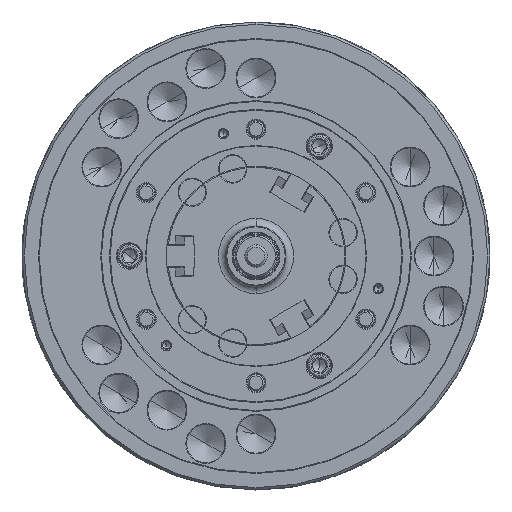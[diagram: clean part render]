
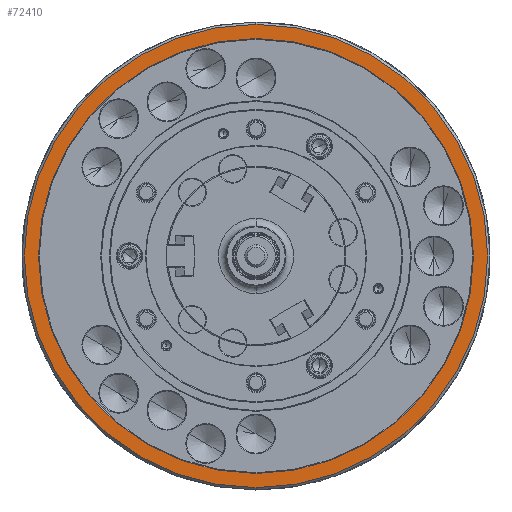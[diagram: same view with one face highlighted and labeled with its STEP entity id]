
A CAD part, left-side view. The second image highlights one B-rep face of the part: STEP entity #72410.
In plain terms, the highlighted planar face has unit normal (-1, 0, 0).
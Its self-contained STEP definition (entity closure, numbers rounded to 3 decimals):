
#9101 = VERTEX_POINT ( 'NONE', #166727 ) ;
#10941 = AXIS2_PLACEMENT_3D ( 'NONE', #13429, #155686, #82869 ) ;
#11253 = EDGE_LOOP ( 'NONE', ( #155855, #202272 ) ) ;
#12066 = DIRECTION ( 'NONE',  ( 0., 0., 1. ) ) ;
#13429 = CARTESIAN_POINT ( 'NONE',  ( -125., 302., 0. ) ) ;
#15799 = EDGE_CURVE ( 'NONE', #9101, #187915, #62377, .T. ) ;
#25758 = DIRECTION ( 'NONE',  ( -1., 0., 0. ) ) ;
#26517 = DIRECTION ( 'NONE',  ( -1., 0., 0. ) ) ;
#38956 = EDGE_LOOP ( 'NONE', ( #169538, #42612 ) ) ;
#42587 = DIRECTION ( 'NONE',  ( 0., 0., 1. ) ) ;
#42612 = ORIENTED_EDGE ( 'NONE', *, *, #114222, .F. ) ;
#50975 = FACE_BOUND ( 'NONE', #38956, .T. ) ;
#55270 = CIRCLE ( 'NONE', #146288, 302. ) ;
#61794 = DIRECTION ( 'NONE',  ( 0., 0., 1. ) ) ;
#62377 = CIRCLE ( 'NONE', #171454, 302. ) ;
#70200 = CARTESIAN_POINT ( 'NONE',  ( -125., 0., 302. ) ) ;
#72410 = ADVANCED_FACE ( 'NONE', ( #50975, #169393 ), #225130, .F. ) ;
#73946 = AXIS2_PLACEMENT_3D ( 'NONE', #145083, #163295, #42587 ) ;
#81374 = CARTESIAN_POINT ( 'NONE',  ( -125., 0., -283.5 ) ) ;
#82620 = CARTESIAN_POINT ( 'NONE',  ( -125., 0., 0. ) ) ;
#82869 = DIRECTION ( 'NONE',  ( 0., 0., -1. ) ) ;
#90421 = CARTESIAN_POINT ( 'NONE',  ( -125., 0., 0. ) ) ;
#97395 = EDGE_CURVE ( 'NONE', #187915, #9101, #55270, .T. ) ;
#98212 = CARTESIAN_POINT ( 'NONE',  ( -125., 0., 0. ) ) ;
#99361 = CIRCLE ( 'NONE', #73946, 283.5 ) ;
#109756 = DIRECTION ( 'NONE',  ( -1., 0., 0. ) ) ;
#114222 = EDGE_CURVE ( 'NONE', #168187, #203619, #192897, .T. ) ;
#143778 = EDGE_CURVE ( 'NONE', #203619, #168187, #99361, .T. ) ;
#145083 = CARTESIAN_POINT ( 'NONE',  ( -125., 0., 0. ) ) ;
#146288 = AXIS2_PLACEMENT_3D ( 'NONE', #82620, #25758, #12066 ) ;
#155686 = DIRECTION ( 'NONE',  ( 1., 0., 0. ) ) ;
#155855 = ORIENTED_EDGE ( 'NONE', *, *, #15799, .T. ) ;
#156559 = DIRECTION ( 'NONE',  ( 0., 0., 1. ) ) ;
#163295 = DIRECTION ( 'NONE',  ( -1., 0., 0. ) ) ;
#166727 = CARTESIAN_POINT ( 'NONE',  ( -125., 0., -302. ) ) ;
#168187 = VERTEX_POINT ( 'NONE', #81374 ) ;
#169393 = FACE_OUTER_BOUND ( 'NONE', #11253, .T. ) ;
#169538 = ORIENTED_EDGE ( 'NONE', *, *, #143778, .F. ) ;
#171454 = AXIS2_PLACEMENT_3D ( 'NONE', #90421, #109756, #156559 ) ;
#187915 = VERTEX_POINT ( 'NONE', #70200 ) ;
#192897 = CIRCLE ( 'NONE', #214631, 283.5 ) ;
#202272 = ORIENTED_EDGE ( 'NONE', *, *, #97395, .T. ) ;
#203619 = VERTEX_POINT ( 'NONE', #211031 ) ;
#211031 = CARTESIAN_POINT ( 'NONE',  ( -125., 0., 283.5 ) ) ;
#214631 = AXIS2_PLACEMENT_3D ( 'NONE', #98212, #26517, #61794 ) ;
#225130 = PLANE ( 'NONE',  #10941 ) ;
